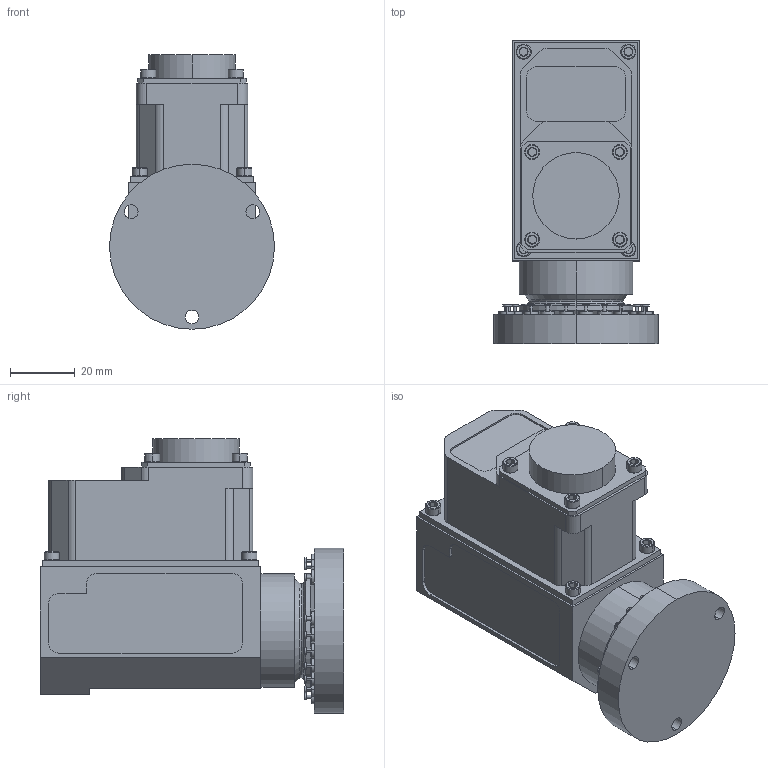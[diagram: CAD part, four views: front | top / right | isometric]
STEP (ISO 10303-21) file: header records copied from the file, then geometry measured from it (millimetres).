
FILE_DESCRIPTION (( 'STEP AP203' ), '1' );
FILE_NAME ('1007757.STEP', '2017-05-19T13:13:26', ( '' ), ( '' ), 'SwSTEP 2.0', 'SolidWorks 2014', '' );
FILE_SCHEMA (( 'CONFIG_CONTROL_DESIGN' ));
Length unit declared in the file: inch
Products named in the file (1): 1007757
Bounding box: 50.77 x 93.38 x 84.47 mm (x, y, z)
Volume: 190385.1 mm3; surface area: 27107.6 mm2
Topology: 1 solids, 2 shells, 484 faces, 1054 edges, 659 vertices
Faces by surface type: plane 189, cylinder 187, cone 104, torus 4
Entity records: 13590 total; most frequent: CARTESIAN_POINT 2583, DIRECTION 2455, ORIENTED_EDGE 2108, EDGE_CURVE 1054, AXIS2_PLACEMENT_3D 985, VERTEX_POINT 659, EDGE_LOOP 577, CIRCLE 500
